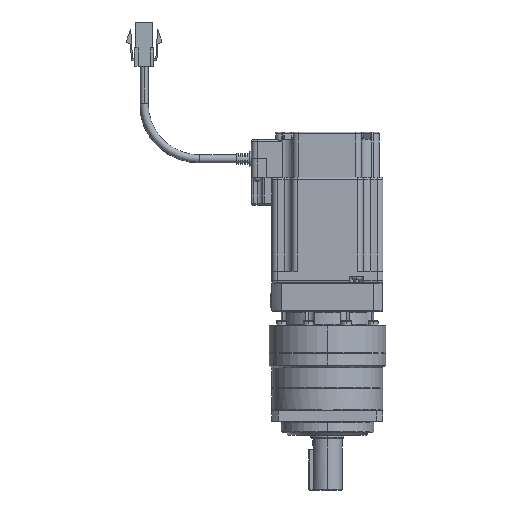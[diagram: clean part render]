
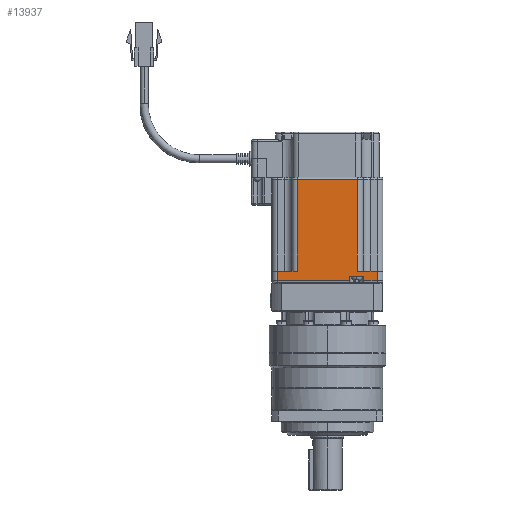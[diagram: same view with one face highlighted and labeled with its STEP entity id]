
A CAD part, left-side view. The second image highlights one B-rep face of the part: STEP entity #13937.
In plain terms, the highlighted planar face has unit normal (-1, 0, 0) as drawn and (1, 0, 0) by its records, which use the part's own axes.
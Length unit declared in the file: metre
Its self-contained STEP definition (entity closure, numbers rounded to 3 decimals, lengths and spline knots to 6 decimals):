
#2051 = VERTEX_POINT ( 'NONE', #10070 ) ;
#2064 = VERTEX_POINT ( 'NONE', #10083 ) ;
#2094 = VERTEX_POINT ( 'NONE', #10113 ) ;
#2100 = VERTEX_POINT ( 'NONE', #10119 ) ;
#2104 = VERTEX_POINT ( 'NONE', #10123 ) ;
#2106 = VERTEX_POINT ( 'NONE', #10125 ) ;
#2107 = VERTEX_POINT ( 'NONE', #10126 ) ;
#2108 = VERTEX_POINT ( 'NONE', #10127 ) ;
#2109 = VERTEX_POINT ( 'NONE', #10128 ) ;
#2115 = VERTEX_POINT ( 'NONE', #10134 ) ;
#2135 = VERTEX_POINT ( 'NONE', #10154 ) ;
#2138 = VERTEX_POINT ( 'NONE', #10157 ) ;
#6116 = CARTESIAN_POINT ( 'NONE',  ( 0.092176, 0.085692, -0.2057 ) ) ;
#6118 = DIRECTION ( 'NONE',  ( 0., -1., 0. ) ) ;
#6135 = CARTESIAN_POINT ( 'NONE',  ( 0.092176, 0.085692, -0.211 ) ) ;
#6136 = DIRECTION ( 'NONE',  ( 0., 1., 0. ) ) ;
#6140 = CARTESIAN_POINT ( 'NONE',  ( 0.092176, 0.058692, -0.1835 ) ) ;
#6141 = DIRECTION ( 'NONE',  ( 0., 0., -1. ) ) ;
#6142 = CARTESIAN_POINT ( 'NONE',  ( 0.092176, 0.105292, -0.1835 ) ) ;
#6143 = DIRECTION ( 'NONE',  ( 0., 0., -1. ) ) ;
#6147 = CARTESIAN_POINT ( 'NONE',  ( 0.092176, 0.097892, -0.1835 ) ) ;
#6148 = DIRECTION ( 'NONE',  ( 0., 0., 1. ) ) ;
#6153 = CARTESIAN_POINT ( 'NONE',  ( 0.092176, 0.085692, -0.2085 ) ) ;
#6154 = DIRECTION ( 'NONE',  ( 0., 1., 0. ) ) ;
#6155 = DIRECTION ( 'NONE',  ( 0., 0., 1. ) ) ;
#6159 = CARTESIAN_POINT ( 'NONE',  ( 0.092176, 0.085692, -0.211 ) ) ;
#6160 = DIRECTION ( 'NONE',  ( 0., 1., 0. ) ) ;
#6162 = CARTESIAN_POINT ( 'NONE',  ( 0.092176, 0.112692, -0.1835 ) ) ;
#6179 = DIRECTION ( 'NONE',  ( 0., -1., 0. ) ) ;
#6182 = CARTESIAN_POINT ( 'NONE',  ( 0.092176, 0.085692, -0.2057 ) ) ;
#6257 = CARTESIAN_POINT ( 'NONE',  ( 0.092176, 0.101992, -0.18035 ) ) ;
#6258 = DIRECTION ( 'NONE',  ( 0., 0., -1. ) ) ;
#6264 = CARTESIAN_POINT ( 'NONE',  ( 0.092176, 0.069392, -0.1835 ) ) ;
#6265 = DIRECTION ( 'NONE',  ( 0., 0., -1. ) ) ;
#6271 = CARTESIAN_POINT ( 'NONE',  ( 0.092176, 0.085692, -0.156 ) ) ;
#6272 = DIRECTION ( 'NONE',  ( 0., 1., 0. ) ) ;
#10070 = CARTESIAN_POINT ( 'NONE',  ( 0.092176, 0.058692, -0.211 ) ) ;
#10083 = CARTESIAN_POINT ( 'NONE',  ( 0.092176, 0.112692, -0.211 ) ) ;
#10113 = CARTESIAN_POINT ( 'NONE',  ( 0.092176, 0.069392, -0.2057 ) ) ;
#10119 = CARTESIAN_POINT ( 'NONE',  ( 0.092176, 0.058692, -0.2057 ) ) ;
#10123 = CARTESIAN_POINT ( 'NONE',  ( 0.092176, 0.105292, -0.2085 ) ) ;
#10125 = CARTESIAN_POINT ( 'NONE',  ( 0.092176, 0.097892, -0.2085 ) ) ;
#10126 = CARTESIAN_POINT ( 'NONE',  ( 0.092176, 0.105292, -0.211 ) ) ;
#10127 = CARTESIAN_POINT ( 'NONE',  ( 0.092176, 0.097892, -0.211 ) ) ;
#10128 = CARTESIAN_POINT ( 'NONE',  ( 0.092176, 0.112692, -0.2057 ) ) ;
#10134 = CARTESIAN_POINT ( 'NONE',  ( 0.092176, 0.101992, -0.2057 ) ) ;
#10154 = CARTESIAN_POINT ( 'NONE',  ( 0.092176, 0.101992, -0.156 ) ) ;
#10157 = CARTESIAN_POINT ( 'NONE',  ( 0.092176, 0.069392, -0.156 ) ) ;
#10562 = FACE_OUTER_BOUND ( 'NONE', #23101, .T. ) ;
#11514 = AXIS2_PLACEMENT_3D ( 'NONE', #18867, #18875, #18876 ) ;
#13937 = ADVANCED_FACE ( 'NONE', ( #10562 ), #18872, .T. ) ;
#18867 = CARTESIAN_POINT ( 'NONE',  ( 0.092176, 0.055692, -0.212 ) ) ;
#18872 = PLANE ( 'NONE',  #11514 ) ;
#18875 = DIRECTION ( 'NONE',  ( 1., 0., 0. ) ) ;
#18876 = DIRECTION ( 'NONE',  ( 0., 1., 0. ) ) ;
#23101 = EDGE_LOOP ( 'NONE', ( #31855, #31856, #31857, #31858, #31859, #31860, #31861, #31862, #31863, #31864, #31865, #31866 ) ) ;
#26612 = EDGE_CURVE ( 'NONE', #2094, #2100, #48200, .T. ) ;
#26621 = EDGE_CURVE ( 'NONE', #2100, #2051, #48214, .T. ) ;
#26623 = EDGE_CURVE ( 'NONE', #2051, #2108, #48218, .T. ) ;
#26624 = EDGE_CURVE ( 'NONE', #2108, #2106, #48219, .T. ) ;
#26627 = EDGE_CURVE ( 'NONE', #2106, #2104, #48225, .T. ) ;
#26629 = EDGE_CURVE ( 'NONE', #2104, #2107, #48229, .T. ) ;
#26630 = EDGE_CURVE ( 'NONE', #2107, #2064, #48230, .T. ) ;
#26632 = EDGE_CURVE ( 'NONE', #2064, #2109, #48210, .T. ) ;
#26640 = EDGE_CURVE ( 'NONE', #2109, #2115, #48245, .T. ) ;
#26676 = EDGE_CURVE ( 'NONE', #2138, #2094, #48309, .T. ) ;
#26678 = EDGE_CURVE ( 'NONE', #2135, #2115, #48313, .T. ) ;
#26679 = EDGE_CURVE ( 'NONE', #2138, #2135, #48314, .T. ) ;
#31855 = ORIENTED_EDGE ( 'NONE', *, *, #26640, .T. ) ;
#31856 = ORIENTED_EDGE ( 'NONE', *, *, #26678, .F. ) ;
#31857 = ORIENTED_EDGE ( 'NONE', *, *, #26679, .F. ) ;
#31858 = ORIENTED_EDGE ( 'NONE', *, *, #26676, .T. ) ;
#31859 = ORIENTED_EDGE ( 'NONE', *, *, #26612, .T. ) ;
#31860 = ORIENTED_EDGE ( 'NONE', *, *, #26621, .T. ) ;
#31861 = ORIENTED_EDGE ( 'NONE', *, *, #26623, .T. ) ;
#31862 = ORIENTED_EDGE ( 'NONE', *, *, #26624, .T. ) ;
#31863 = ORIENTED_EDGE ( 'NONE', *, *, #26627, .T. ) ;
#31864 = ORIENTED_EDGE ( 'NONE', *, *, #26629, .T. ) ;
#31865 = ORIENTED_EDGE ( 'NONE', *, *, #26630, .T. ) ;
#31866 = ORIENTED_EDGE ( 'NONE', *, *, #26632, .T. ) ;
#48200 = LINE ( 'NONE', #6116, #48203 ) ;
#48203 = VECTOR ( 'NONE', #6118, 1. ) ;
#48210 = LINE ( 'NONE', #6162, #48236 ) ;
#48214 = LINE ( 'NONE', #6140, #48217 ) ;
#48217 = VECTOR ( 'NONE', #6141, 1. ) ;
#48218 = LINE ( 'NONE', #6135, #48220 ) ;
#48219 = LINE ( 'NONE', #6147, #48222 ) ;
#48220 = VECTOR ( 'NONE', #6136, 1. ) ;
#48222 = VECTOR ( 'NONE', #6148, 1. ) ;
#48225 = LINE ( 'NONE', #6153, #48228 ) ;
#48228 = VECTOR ( 'NONE', #6154, 1. ) ;
#48229 = LINE ( 'NONE', #6142, #48231 ) ;
#48230 = LINE ( 'NONE', #6159, #48233 ) ;
#48231 = VECTOR ( 'NONE', #6143, 1. ) ;
#48233 = VECTOR ( 'NONE', #6160, 1. ) ;
#48236 = VECTOR ( 'NONE', #6155, 1. ) ;
#48245 = LINE ( 'NONE', #6182, #48249 ) ;
#48249 = VECTOR ( 'NONE', #6179, 1. ) ;
#48309 = LINE ( 'NONE', #6264, #48312 ) ;
#48312 = VECTOR ( 'NONE', #6265, 1. ) ;
#48313 = LINE ( 'NONE', #6257, #48315 ) ;
#48314 = LINE ( 'NONE', #6271, #48317 ) ;
#48315 = VECTOR ( 'NONE', #6258, 1. ) ;
#48317 = VECTOR ( 'NONE', #6272, 1. ) ;
